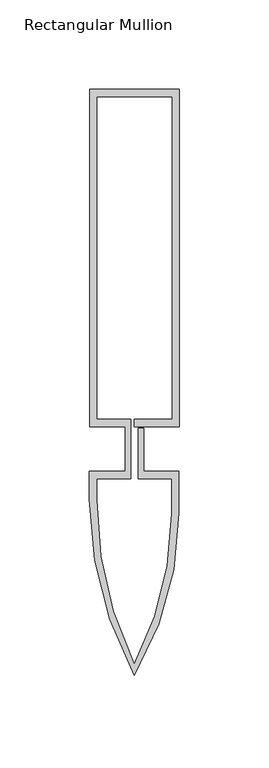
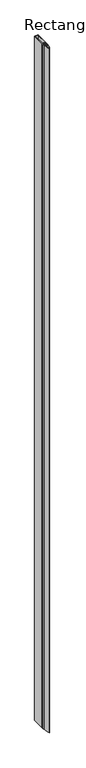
"""IFC4 building model written with IfcOpenShell, lengths in millimetres: member geometry, Rectangular Mullion : Reynaers_CW-50_Mullion-Transom_Vertical_188.5mm_Facecap-05."""

from ifc_helpers import new_model, si_unit, point, frame, frame_2d, origin, place, context, project, spatial, polyline, circle_curve, trimmed, segment, composite_curve, outline, extrude, source, transform, mapped, element, save


def rectangular_mullion_a4b37306(model_context):
    return source(origin(), model_context, "Body", "SweptSolid", [
        extrude(outline(composite_curve([segment(polyline([(-24.8004059, 201.0), (25.1995941, 201.0), (25.1995941, 12.5), (0.0, 12.5), (0.0, 16.5), (21.1995941, 16.5), (21.1995941, 197.0), (-20.8004059, 197.0), (-20.8004059, 16.5), (-1.9004059, 16.5), (-1.9004059, -16.5), (-20.994845, -16.5), (-20.994845, -28.2355063)]), True, "CONTINUOUS"), segment(trimmed(circle_curve(frame_2d((191.2554764, -28.2355063)), 212.2503214), [point((-20.994845, -28.2355063))], [point((0.0, -120.2764846))], True, "CARTESIAN"), True, "CONTINUOUS"), segment(trimmed(circle_curve(frame_2d((-158.432152, -36.0547506)), 179.426997), [point((0.0, -120.2764846))], [point((20.994845, -36.0547506))], True, "CARTESIAN"), True, "CONTINUOUS"), segment(polyline([(20.994845, -36.0547506), (20.994845, -16.5), (2.2995941, -16.5), (2.2995941, 11.5), (5.2995941, 11.5), (5.2995941, -12.5), (24.994845, -12.5), (24.994845, -36.0195976)]), True, "CONTINUOUS"), segment(trimmed(circle_curve(frame_2d((-151.2704106, -36.0195976)), 176.2652556), [point((24.994845, -36.0195976))], [point((0.0, -126.5))], False, "CARTESIAN"), True, "CONTINUOUS"), segment(trimmed(circle_curve(frame_2d((181.1469577, -28.111878)), 206.1418028), [point((0.0, -126.5))], [point((-24.994845, -28.111878))], False, "CARTESIAN"), True, "CONTINUOUS"), segment(polyline([(-24.994845, -28.111878), (-24.994845, -12.5), (-4.9004059, -12.5), (-4.9004059, 12.5), (-24.8004059, 12.5), (-24.8004059, 201.0)]), True, "CONTINUOUS")], self_intersect=False)), frame((0.0, 0.0, -10400.0), z_axis=(0.0, 0.0, 1.0), x_axis=(1.0, 0.0, 0.0)), (0.0, 0.0, 1.0), 10400.0),
    ])


if __name__ == "__main__":
    model = new_model("IFC4")
    model_context = context("Model", 3, world=origin())
    ifc_project = project(units=[si_unit("LENGTHUNIT", "METRE", prefix="MILLI")], contexts=[model_context])
    site = spatial("IfcSite", under=ifc_project)
    building = spatial("IfcBuilding", under=site)
    placement = place(None, origin())
    rectangular_mullion_shape = rectangular_mullion_a4b37306(model_context)
    element("IfcMember", 1, ObjectType="Rectangular Mullion : Reynaers_CW-50_Mullion-Transom_Vertical_188.5mm_Facecap-05", at=placement, inside=building, context=model_context, shape_type="MappedRepresentation", body=[
        mapped(rectangular_mullion_shape, transform((0.0, 0.0, 0.0), x_axis=(1.0, 0.0, 0.0), y_axis=(0.0, 1.0, 0.0), z_axis=(0.0, 0.0, 1.0))),
    ])
    save(model, "model.ifc")
